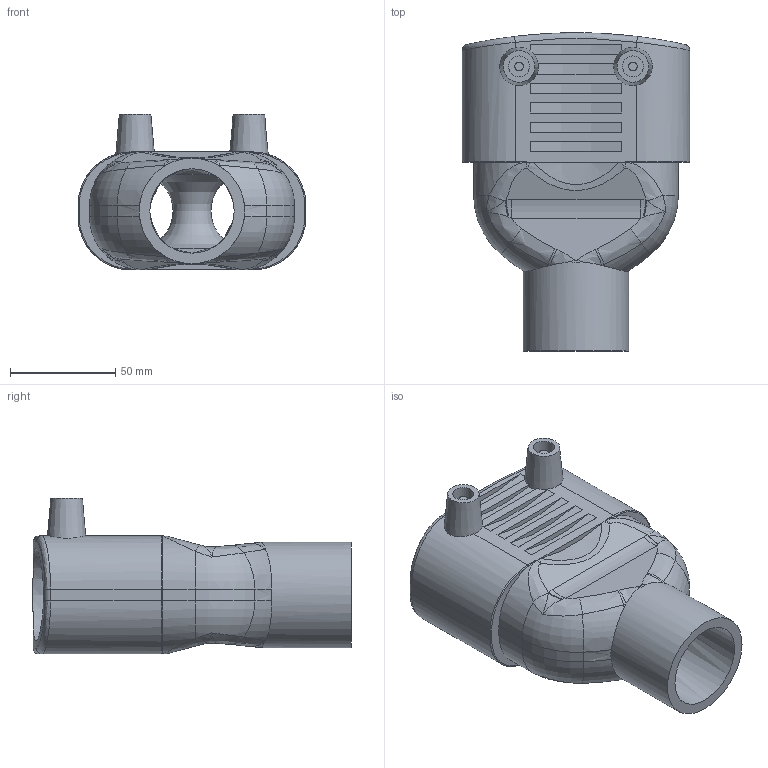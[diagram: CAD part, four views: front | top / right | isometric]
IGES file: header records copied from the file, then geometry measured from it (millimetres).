
Global section: file name: 491904050040.ipt; native system: Autodesk Inventor 2015; preprocessor: unknown; author: KIM; date: 20171106.093915; units: millimetre
Bounding box: 108 x 150.95 x 74 mm (x, y, z)
Volume: 319640.9 mm3; surface area: 73247.1 mm2
Topology: 1 solids, 1 shells, 175 faces, 412 edges, 251 vertices
Faces by surface type: bspline 52, plane 51, revolution 42, cylinder 28, cone 2
Full cylindrical faces by diameter (mm): 4 x2, 50 x1
